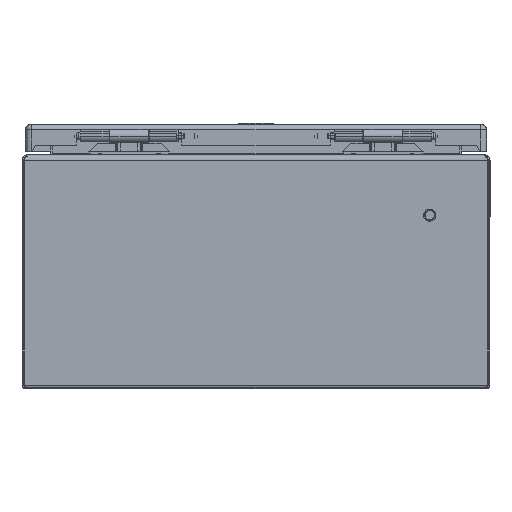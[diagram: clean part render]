
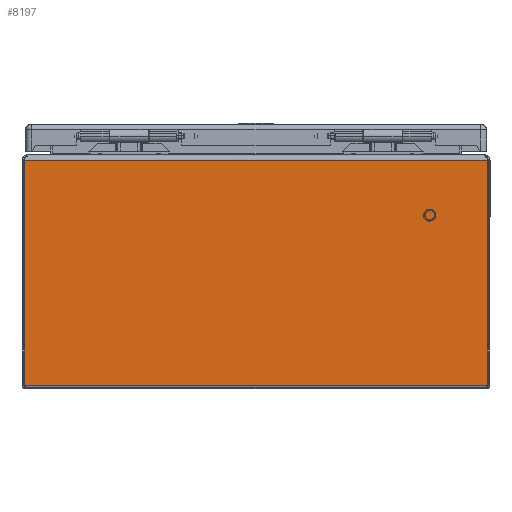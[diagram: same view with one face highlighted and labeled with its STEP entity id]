
A CAD part, left-side view. The second image highlights one B-rep face of the part: STEP entity #8197.
In plain terms, the highlighted planar face has unit normal (-1, 0, 0).
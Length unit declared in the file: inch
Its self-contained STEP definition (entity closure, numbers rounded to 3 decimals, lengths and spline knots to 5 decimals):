
#1217 = VERTEX_POINT ( 'NONE', #13316 ) ;
#1218 = VERTEX_POINT ( 'NONE', #13317 ) ;
#1253 = VERTEX_POINT ( 'NONE', #13352 ) ;
#1263 = VERTEX_POINT ( 'NONE', #13362 ) ;
#5026 = EDGE_CURVE ( 'NONE', #1217, #1218, #25224, .T. ) ;
#5069 = EDGE_CURVE ( 'NONE', #1263, #1253, #25285, .T. ) ;
#5084 = EDGE_CURVE ( 'NONE', #1217, #1253, #25306, .T. ) ;
#5087 = EDGE_CURVE ( 'NONE', #1218, #1263, #25311, .T. ) ;
#5649 = EDGE_LOOP ( 'NONE', ( #8631, #8632, #8633, #8634 ) ) ;
#8197 = ADVANCED_FACE ( 'NONE', ( #29522 ), #30550, .T. ) ;
#8631 = ORIENTED_EDGE ( 'NONE', *, *, #5069, .T. ) ;
#8632 = ORIENTED_EDGE ( 'NONE', *, *, #5084, .F. ) ;
#8633 = ORIENTED_EDGE ( 'NONE', *, *, #5026, .T. ) ;
#8634 = ORIENTED_EDGE ( 'NONE', *, *, #5087, .T. ) ;
#13316 = CARTESIAN_POINT ( 'NONE',  ( -12., 5.94693, 5.859 ) ) ;
#13317 = CARTESIAN_POINT ( 'NONE',  ( -12., 5.94693, 0.097 ) ) ;
#13352 = CARTESIAN_POINT ( 'NONE',  ( -12., -5.94693, 5.859 ) ) ;
#13362 = CARTESIAN_POINT ( 'NONE',  ( -12., -5.94693, 0.097 ) ) ;
#23828 = AXIS2_PLACEMENT_3D ( 'NONE', #30546, #30555, #30556 ) ;
#25220 = VECTOR ( 'NONE', #27617, 39.37008 ) ;
#25224 = LINE ( 'NONE', #27616, #25220 ) ;
#25285 = LINE ( 'NONE', #27724, #25288 ) ;
#25288 = VECTOR ( 'NONE', #27725, 39.37008 ) ;
#25306 = LINE ( 'NONE', #27758, #25312 ) ;
#25311 = LINE ( 'NONE', #27760, #25320 ) ;
#25312 = VECTOR ( 'NONE', #27759, 39.37008 ) ;
#25320 = VECTOR ( 'NONE', #27766, 39.37008 ) ;
#27616 = CARTESIAN_POINT ( 'NONE',  ( -12., 5.94693, 5.859 ) ) ;
#27617 = DIRECTION ( 'NONE',  ( 0., 0., -1. ) ) ;
#27724 = CARTESIAN_POINT ( 'NONE',  ( -12., -5.94693, 5.859 ) ) ;
#27725 = DIRECTION ( 'NONE',  ( 0., 0., 1. ) ) ;
#27758 = CARTESIAN_POINT ( 'NONE',  ( -12., 126., 5.859 ) ) ;
#27759 = DIRECTION ( 'NONE',  ( 0., -1., 0. ) ) ;
#27760 = CARTESIAN_POINT ( 'NONE',  ( -12., 126., 0.097 ) ) ;
#27766 = DIRECTION ( 'NONE',  ( 0., -1., 0. ) ) ;
#29522 = FACE_OUTER_BOUND ( 'NONE', #5649, .T. ) ;
#30546 = CARTESIAN_POINT ( 'NONE',  ( -12., 126., 5.859 ) ) ;
#30550 = PLANE ( 'NONE',  #23828 ) ;
#30555 = DIRECTION ( 'NONE',  ( -1., 0., 0. ) ) ;
#30556 = DIRECTION ( 'NONE',  ( 0., 0., -1. ) ) ;
